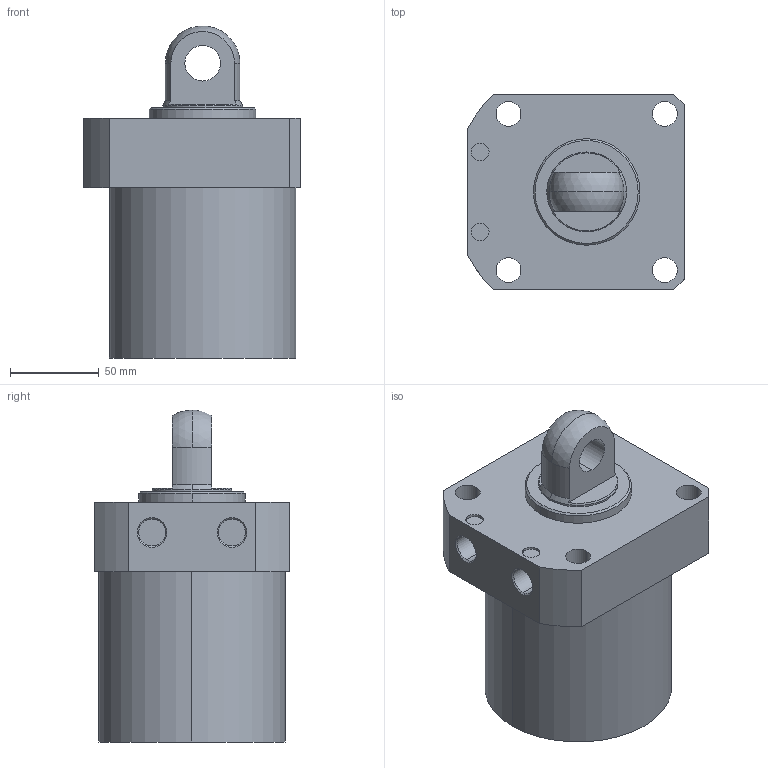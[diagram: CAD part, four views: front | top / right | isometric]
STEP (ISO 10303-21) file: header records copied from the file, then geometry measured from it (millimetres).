
FILE_DESCRIPTION (( 'STEP AP203' ), '1' );
FILE_NAME ('CLLR-105CP-075.STEP', '2019-12-19T02:09:12', ( '' ), ( '' ), 'SwSTEP 2.0', 'SolidWorks 2015', '' );
FILE_SCHEMA (( 'CONFIG_CONTROL_DESIGN' ));
Length unit declared in the file: millimetre
Products named in the file (1): CLLR-105CP-075
Bounding box: 122 x 110 x 187 mm (x, y, z)
Volume: 1357467.2 mm3; surface area: 89346.3 mm2
Topology: 1 solids, 1 shells, 57 faces, 135 edges, 87 vertices
Faces by surface type: cylinder 29, plane 18, cone 8, sphere 2
Entity records: 1770 total; most frequent: DIRECTION 319, CARTESIAN_POINT 292, ORIENTED_EDGE 270, EDGE_CURVE 135, AXIS2_PLACEMENT_3D 130, VERTEX_POINT 87, EDGE_LOOP 74, CIRCLE 72
